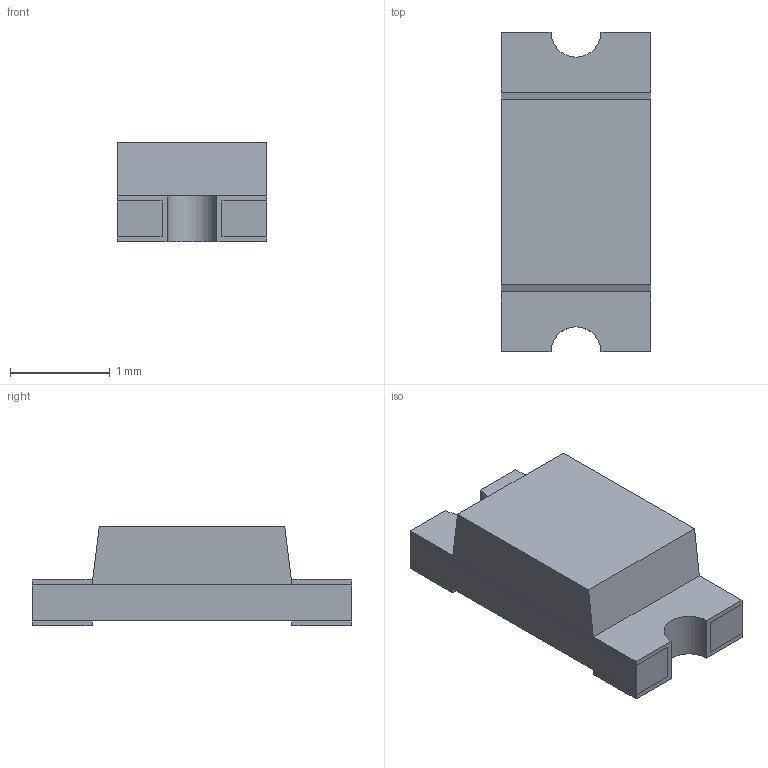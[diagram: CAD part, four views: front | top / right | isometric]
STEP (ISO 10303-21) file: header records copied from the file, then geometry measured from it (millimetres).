
FILE_DESCRIPTION(('FreeCAD Model'),'2;1');
FILE_NAME('Open CASCADE Shape Model','2025-01-27T18:46:29',( 'Krisjanis Rijnieks'),(''),'Open CASCADE STEP processor 7.7', 'FreeCAD','Unknown');
FILE_SCHEMA(('AUTOMOTIVE_DESIGN { 1 0 10303 214 1 1 1 1 }'));
Length unit declared in the file: millimetre
Products named in the file (5): 1206; Base; Emmiter; Contact_1; Contact_2
Assembly tree (4 placements, depth 2):
  1206
    Base
    Emmiter
    Contact_1
    Contact_2
Bounding box: 1.5 x 3.2 x 1 mm (x, y, z)
Volume: 3.5 mm3; surface area: 31 mm2
Topology: 4 solids, 4 shells, 44 faces, 108 edges, 72 vertices
Faces by surface type: plane 38, cylinder 6
Entity records: 1404 total; most frequent: CARTESIAN_POINT 229, DIRECTION 218, ORIENTED_EDGE 216, EDGE_CURVE 108, LINE 96, VECTOR 96, VERTEX_POINT 72, AXIS2_PLACEMENT_3D 61
